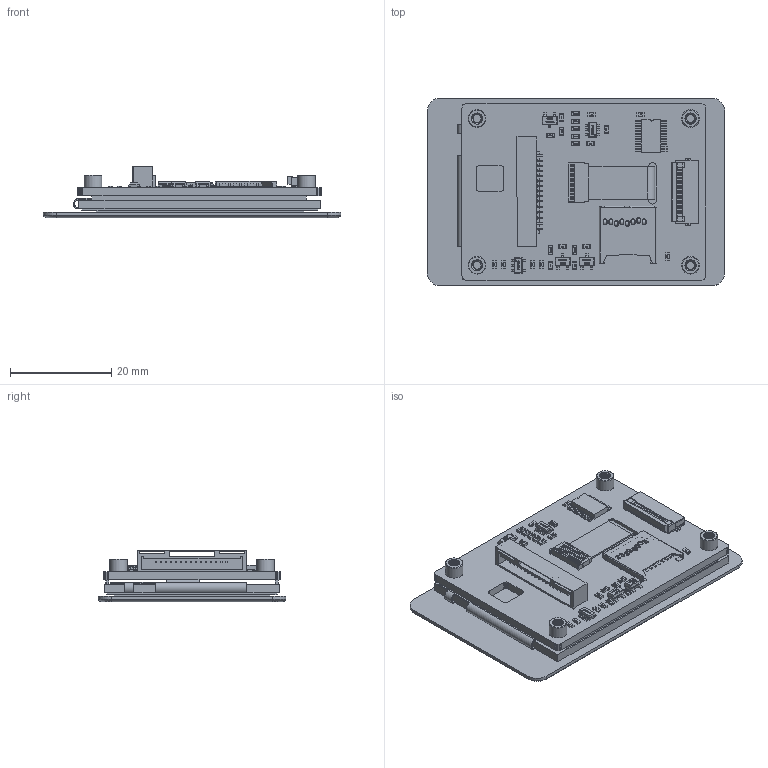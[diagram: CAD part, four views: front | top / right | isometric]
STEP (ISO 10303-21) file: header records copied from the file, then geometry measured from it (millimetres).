
FILE_DESCRIPTION(/* description */ ('Open CASCADE Model','CAx-IF Rec.Pracs.---Representation and Presentation of Product Manufacturing Information (PMI)---4.0---2014-10-13'),/* implementation_level */ '2;1');
FILE_NAME(/* name */ '2inch Capacitive Touch LCD.step',/* time_stamp */ '2025-01-08T18:52:21+08:00',/* author */ (''),/* organization */ (''),/* preprocessor_version */ 'ST-DEVELOPER v20',/* originating_system */ 'Autodesk Translation Framework v13.20.0.188',/* authorisation */ '');
FILE_SCHEMA (('AP242_MANAGED_MODEL_BASED_3D_ENGINEERING_MIM_LF { 1 0 10303 442 1 1 4 }'));
Products named in the file (72): PCB; Board; C1; PITCH1MM-12PIN-SMT-HORIZONTAL; L2; FPC0.5_2H-S-W-18P; FPC0_5_2H-S-W-18P-10402_AF0_ASM; FPC0_5_2H-S-W-18P-2644_AF0_ASM; 6_1_2_3_4_5_6_7_8_0006; 7_1_2_3_4_5_6_7_8_0008; FPC0_5_2H-W__1_2_30012; C2; C3; C4; C6; C7; J1; TF-110; COMPOUND001; C5; User_Library-0603_SMD_Capacitor; Q1; R1; M1; SOT23-6; SOT23-6-13550_AF0_ASM; SOT23-6-7933_AF0; SOT23-5AND6__100; Q2; R2; R3; R7; R5; R4; R6; R8; R12; R11; R9; R10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
Assembly tree (159 placements, depth 7):
  PCB
    Board
      C1
        User_Library-0603_SMD_Capacitor
      PITCH1MM-12PIN-SMT-HORIZONTAL
      L2
        FPC0.5_2H-S-W-18P
          FPC0_5_2H-S-W-18P-10402_AF0_ASM
            FPC0_5_2H-W__1_2_30012  x18
            FPC0_5_2H-S-W-18P-2644_AF0_ASM
              6_1_2_3_4_5_6_7_8_0006
              7_1_2_3_4_5_6_7_8_0008
      C2
        User_Library-0603_SMD_Capacitor
      C3
        User_Library-0603_SMD_Capacitor
      C4
        User_Library-0603_SMD_Capacitor
      C6
        User_Library-0603_SMD_Capacitor
      C7
        User_Library-0603_SMD_Capacitor
      J1
        TF-110
          COMPOUND001
      C5
        User_Library-0603_SMD_Capacitor
      Q1
        SOT-23
      R1
        R0603
          R_0603-3615_AF0_ASM
            R_0603-3601_AF0_ASM
              _2_1_2_3_4_AF0
              _7_1_2_AF0
              5_1_2_3_400
      M1
        SOT23-6
          SOT23-6-13550_AF0_ASM
            SOT23-5AND6__100  x6
            SOT23-6-7933_AF0
      Q2
        SOT-23
      R2
        R0603
          R_0603-3615_AF0_ASM
            R_0603-3601_AF0_ASM
              _2_1_2_3_4_AF0
              _7_1_2_AF0
              5_1_2_3_400
      R3
        R0603
          R_0603-3615_AF0_ASM
            R_0603-3601_AF0_ASM
              _2_1_2_3_4_AF0
              _7_1_2_AF0
              5_1_2_3_400
      R7
        R0603
          R_0603-3615_AF0_ASM
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Bounding box: 58.81 x 37.11 x 10.15 mm (x, y, z)
Volume: 9312.7 mm3; surface area: 16071.9 mm2
Topology: 124 solids, 145 shells, 14137 faces, 37541 edges, 24610 vertices
Faces by surface type: plane 9813, bspline 3209, cylinder 875, sphere 140, torus 92, cone 8
Full cylindrical faces by diameter (mm): 0.25 x2, 2 x28, 2.19 x4, 2.2 x4, 3.5 x4
Entity records: 156368 total; most frequent: CARTESIAN_POINT 49073, ORIENTED_EDGE 22986, DIRECTION 18768, EDGE_CURVE 11493, LINE 9568, VECTOR 9568, VERTEX_POINT 7541, AXIS2_PLACEMENT_3D 4600
